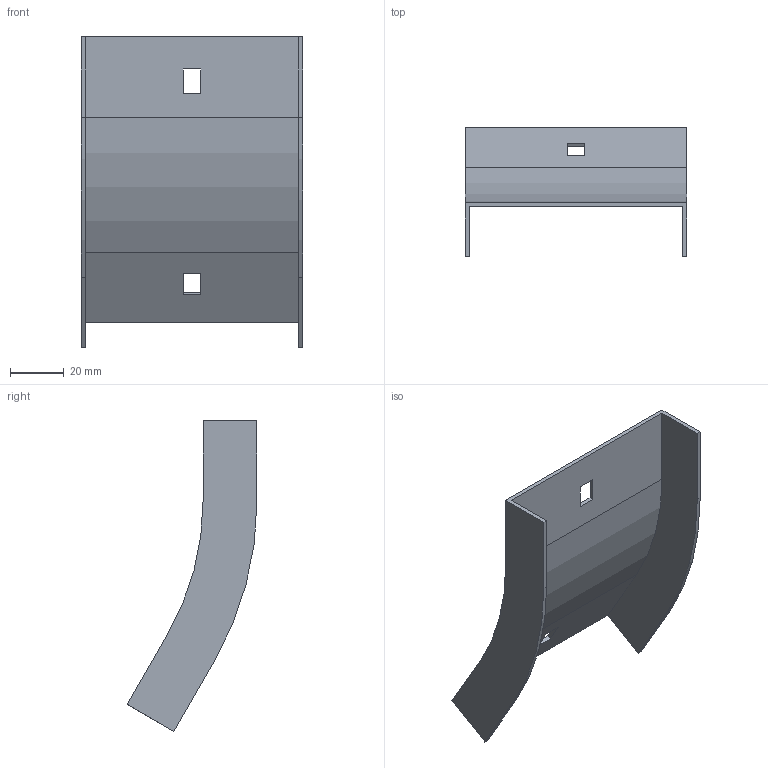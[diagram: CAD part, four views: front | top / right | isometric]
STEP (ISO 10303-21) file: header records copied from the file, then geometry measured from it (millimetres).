
FILE_DESCRIPTION (( 'STEP AP214' ), '1' );
FILE_NAME ('32G1P075.step', '2025-02-21T12:46:51', ( '' ), ( '' ), 'SwSTEP 2.0', 'SolidWorks 2023', '' );
FILE_SCHEMA (( 'AUTOMOTIVE_DESIGN' ));
Length unit declared in the file: millimetre
Products named in the file (1): 32G1P075
Bounding box: 82 x 48.2 x 115.23 mm (x, y, z)
Volume: 20101.2 mm3; surface area: 27616.6 mm2
Topology: 1 solids, 1 shells, 26 faces, 72 edges, 48 vertices
Faces by surface type: plane 22, cylinder 4
Entity records: 855 total; most frequent: CARTESIAN_POINT 147, ORIENTED_EDGE 144, DIRECTION 134, EDGE_CURVE 72, VECTOR 64, LINE 64, VERTEX_POINT 48, AXIS2_PLACEMENT_3D 35
